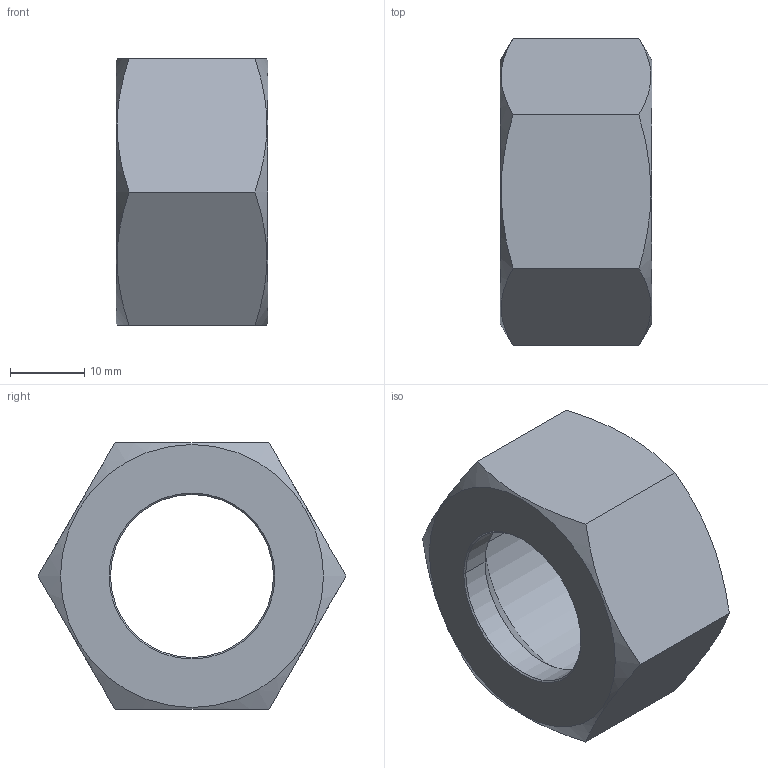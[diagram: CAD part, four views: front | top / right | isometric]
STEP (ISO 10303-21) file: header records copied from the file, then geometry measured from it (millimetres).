
FILE_DESCRIPTION((''),'2;1');
FILE_NAME('100210.stp','2006-03-06T15:11:16',('Dario Falcomer'),('CAST S.p.A.'),'AutoCAD STEP 2000i','AutoCAD 2000i',', , ');
FILE_SCHEMA(('CONFIG_CONTROL_DESIGN'));
Length unit declared in the file: millimetre
Products named in the file (2): 100210.0; CHIAVE_DADI#0
Assembly tree (1 placements, depth 2):
  100210.0
    CHIAVE_DADI#0
Bounding box: 20.5 x 41.57 x 36 mm (x, y, z)
Volume: 11387.8 mm3; surface area: 5390.4 mm2
Topology: 1 solids, 1 shells, 22 faces, 52 edges, 32 vertices
Faces by surface type: cone 10, plane 8, cylinder 4
Entity records: 725 total; most frequent: CARTESIAN_POINT 140, ORIENTED_EDGE 104, DIRECTION 100, EDGE_CURVE 52, AXIS2_PLACEMENT_3D 40, VERTEX_POINT 32, EDGE_LOOP 24, FACE_OUTER_BOUND 22
